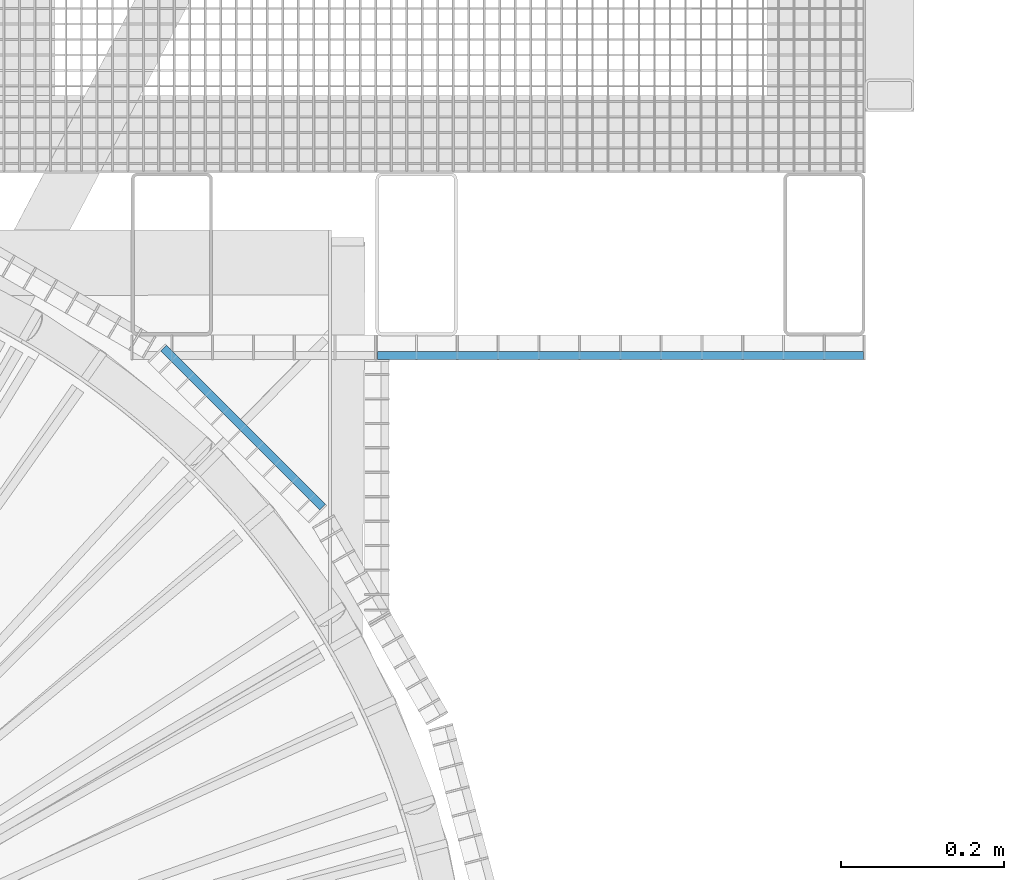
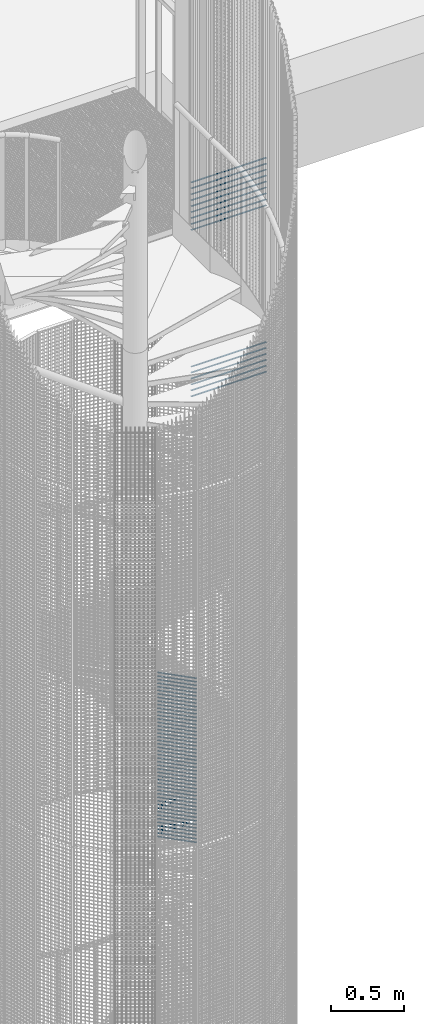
# One storey, part 295 of 1148: 62 beams, 2 elements without a shape of their own.
"""IFC2X3 building model written with IfcOpenShell, lengths in millimetres."""

from ifc_helpers import new_model, si_unit, frame, origin_with_axes, origin_2d_with_axis, place, context, subcontext, project, spatial, rectangle, extrude, material, type_object, element, aggregate, save


model = new_model("IFC2X3")

# Units and contexts
model_context = context("Model", 3, precision=1e-05, world=origin_with_axes())
body_context = subcontext(model_context, "Body", "Model", "MODEL_VIEW")
ifc_project = project(units=[si_unit("LENGTHUNIT", "METRE", prefix="MILLI"), si_unit("AREAUNIT", "SQUARE_METRE"), si_unit("VOLUMEUNIT", "CUBIC_METRE"), si_unit("MASSUNIT", "GRAM", prefix="KILO"), si_unit("TIMEUNIT", "SECOND"), si_unit("PLANEANGLEUNIT", "RADIAN"), si_unit("SOLIDANGLEUNIT", "STERADIAN"), si_unit("THERMODYNAMICTEMPERATUREUNIT", "DEGREE_CELSIUS"), si_unit("LUMINOUSINTENSITYUNIT", "LUMEN")], contexts=[model_context])

# Site, building, storey
site_placement = place(None, origin_with_axes())
site = spatial("IfcSite", under=ifc_project, at=site_placement, Name="Undefined", CompositionType="ELEMENT")
building_placement = place(site_placement, origin_with_axes())
building = spatial("IfcBuilding", under=site, at=building_placement, Name="Undefined", CompositionType="ELEMENT")
storey_placement = place(building_placement, origin_with_axes())
storey = spatial("IfcBuildingStorey", under=building, at=storey_placement, Name="Undefined", CompositionType="ELEMENT", Elevation=0.0)

# Assembly, beams
assembly_1_placement = place(storey_placement, origin_with_axes())
assembly_1 = element("IfcElementAssembly", 1, at=assembly_1_placement, inside=storey, Name="BORDURE", AssemblyPlace="NOTDEFINED", PredefinedType="NOTDEFINED")
ifc_material = material(Name="STEEL/S235JR")
beam_type = type_object("IfcBeamType", Name="PL2*10", PredefinedType="NOTDEFINED")
beam_1_placement = place(assembly_1_placement, frame((952.069589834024, 876.014689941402, 6604.998), z_axis=(0.0, -1.0, 0.0), x_axis=(1.0, 0.0, 0.0)))
beam_1 = element("IfcBeam", 2, at=beam_1_placement, type_object=beam_type, material=ifc_material, Name="ENTRETOISE", context=body_context, shape_type="SweptSolid", body=[
    extrude(rectangle(XDim=2.0, YDim=10.0, at=origin_2d_with_axis()), frame((596.0, 0.0, 0.0), z_axis=(-1.0, 0.0, 0.0), x_axis=(0.0, -1.0, 0.0)), (0.0, 0.0, 1.0), 596.0),
])
beam_2_placement = place(assembly_1_placement, frame((952.069589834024, 876.014689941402, 5454.998), z_axis=(0.0, -1.0, 0.0), x_axis=(1.0, 0.0, 0.0)))
beam_2 = element("IfcBeam", 3, at=beam_2_placement, type_object=beam_type, material=ifc_material, Name="ENTRETOISE", context=body_context, shape_type="SweptSolid", body=[
    extrude(rectangle(XDim=2.0, YDim=10.0, at=origin_2d_with_axis()), frame((596.0, 0.0, 0.0), z_axis=(-1.0, 0.0, 0.0), x_axis=(0.0, -1.0, 0.0)), (0.0, 0.0, 1.0), 596.0),
])
beam_3_placement = place(assembly_1_placement, frame((952.069589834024, 876.014689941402, 6654.998), z_axis=(0.0, -1.0, 0.0), x_axis=(1.0, 0.0, 0.0)))
beam_3 = element("IfcBeam", 4, at=beam_3_placement, type_object=beam_type, material=ifc_material, Name="ENTRETOISE", context=body_context, shape_type="SweptSolid", body=[
    extrude(rectangle(XDim=2.0, YDim=10.0, at=origin_2d_with_axis()), frame((596.0, 0.0, 0.0), z_axis=(-1.0, 0.0, 0.0), x_axis=(0.0, -1.0, 0.0)), (0.0, 0.0, 1.0), 596.0),
])
beam_4_placement = place(assembly_1_placement, frame((952.069589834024, 876.014689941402, 5404.998), z_axis=(0.0, -1.0, 0.0), x_axis=(1.0, 0.0, 0.0)))
beam_4 = element("IfcBeam", 5, at=beam_4_placement, type_object=beam_type, material=ifc_material, Name="ENTRETOISE", context=body_context, shape_type="SweptSolid", body=[
    extrude(rectangle(XDim=2.0, YDim=10.0, at=origin_2d_with_axis()), frame((596.0, 0.0, 0.0), z_axis=(-1.0, 0.0, 0.0), x_axis=(0.0, -1.0, 0.0)), (0.0, 0.0, 1.0), 596.0),
])
beam_5_placement = place(assembly_1_placement, frame((952.069589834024, 876.014689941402, 6704.998), z_axis=(0.0, -1.0, 0.0), x_axis=(1.0, 0.0, 0.0)))
beam_5 = element("IfcBeam", 6, at=beam_5_placement, type_object=beam_type, material=ifc_material, Name="ENTRETOISE", context=body_context, shape_type="SweptSolid", body=[
    extrude(rectangle(XDim=2.0, YDim=10.0, at=origin_2d_with_axis()), frame((596.0, 0.0, 0.0), z_axis=(-1.0, 0.0, 0.0), x_axis=(0.0, -1.0, 0.0)), (0.0, 0.0, 1.0), 596.0),
])
beam_6_placement = place(assembly_1_placement, frame((952.069589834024, 876.014689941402, 6754.998), z_axis=(0.0, -1.0, 0.0), x_axis=(1.0, 0.0, 0.0)))
beam_6 = element("IfcBeam", 7, at=beam_6_placement, type_object=beam_type, material=ifc_material, Name="ENTRETOISE", context=body_context, shape_type="SweptSolid", body=[
    extrude(rectangle(XDim=2.0, YDim=10.0, at=origin_2d_with_axis()), frame((596.0, 0.0, 0.0), z_axis=(-1.0, 0.0, 0.0), x_axis=(0.0, -1.0, 0.0)), (0.0, 0.0, 1.0), 596.0),
])
beam_7_placement = place(assembly_1_placement, frame((952.069589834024, 876.014689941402, 5354.998), z_axis=(0.0, -1.0, 0.0), x_axis=(1.0, 0.0, 0.0)))
beam_7 = element("IfcBeam", 8, at=beam_7_placement, type_object=beam_type, material=ifc_material, Name="ENTRETOISE", context=body_context, shape_type="SweptSolid", body=[
    extrude(rectangle(XDim=2.0, YDim=10.0, at=origin_2d_with_axis()), frame((596.0, 0.0, 0.0), z_axis=(-1.0, 0.0, 0.0), x_axis=(0.0, -1.0, 0.0)), (0.0, 0.0, 1.0), 596.0),
])
beam_8_placement = place(assembly_1_placement, frame((952.069589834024, 876.014689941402, 6804.998), z_axis=(0.0, -1.0, 0.0), x_axis=(1.0, 0.0, 0.0)))
beam_8 = element("IfcBeam", 9, at=beam_8_placement, type_object=beam_type, material=ifc_material, Name="ENTRETOISE", context=body_context, shape_type="SweptSolid", body=[
    extrude(rectangle(XDim=2.0, YDim=10.0, at=origin_2d_with_axis()), frame((596.0, 0.0, 0.0), z_axis=(-1.0, 0.0, 0.0), x_axis=(0.0, -1.0, 0.0)), (0.0, 0.0, 1.0), 596.0),
])
beam_9_placement = place(assembly_1_placement, frame((952.069589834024, 876.014689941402, 6854.998), z_axis=(0.0, -1.0, 0.0), x_axis=(1.0, 0.0, 0.0)))
beam_9 = element("IfcBeam", 10, at=beam_9_placement, type_object=beam_type, material=ifc_material, Name="ENTRETOISE", context=body_context, shape_type="SweptSolid", body=[
    extrude(rectangle(XDim=2.0, YDim=10.0, at=origin_2d_with_axis()), frame((596.0, 0.0, 0.0), z_axis=(-1.0, 0.0, 0.0), x_axis=(0.0, -1.0, 0.0)), (0.0, 0.0, 1.0), 596.0),
])
beam_10_placement = place(assembly_1_placement, frame((952.069589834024, 876.014689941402, 5304.998), z_axis=(0.0, -1.0, 0.0), x_axis=(1.0, 0.0, 0.0)))
beam_10 = element("IfcBeam", 11, at=beam_10_placement, type_object=beam_type, material=ifc_material, Name="ENTRETOISE", context=body_context, shape_type="SweptSolid", body=[
    extrude(rectangle(XDim=2.0, YDim=10.0, at=origin_2d_with_axis()), frame((596.0, 0.0, 0.0), z_axis=(-1.0, 0.0, 0.0), x_axis=(0.0, -1.0, 0.0)), (0.0, 0.0, 1.0), 596.0),
])
beam_11_placement = place(assembly_1_placement, frame((952.069589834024, 876.014689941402, 6904.998), z_axis=(0.0, -1.0, 0.0), x_axis=(1.0, 0.0, 0.0)))
beam_11 = element("IfcBeam", 12, at=beam_11_placement, type_object=beam_type, material=ifc_material, Name="ENTRETOISE", context=body_context, shape_type="SweptSolid", body=[
    extrude(rectangle(XDim=2.0, YDim=10.0, at=origin_2d_with_axis()), frame((596.0, 0.0, 0.0), z_axis=(-1.0, 0.0, 0.0), x_axis=(0.0, -1.0, 0.0)), (0.0, 0.0, 1.0), 596.0),
])
beam_12_placement = place(assembly_1_placement, frame((952.069589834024, 876.014689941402, 5254.998), z_axis=(0.0, -1.0, 0.0), x_axis=(1.0, 0.0, 0.0)))
beam_12 = element("IfcBeam", 13, at=beam_12_placement, type_object=beam_type, material=ifc_material, Name="ENTRETOISE", context=body_context, shape_type="SweptSolid", body=[
    extrude(rectangle(XDim=2.0, YDim=10.0, at=origin_2d_with_axis()), frame((596.0, 0.0, 0.0), z_axis=(-1.0, 0.0, 0.0), x_axis=(0.0, -1.0, 0.0)), (0.0, 0.0, 1.0), 596.0),
])
beam_13_placement = place(assembly_1_placement, frame((952.069589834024, 876.014689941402, 6954.998), z_axis=(0.0, -1.0, 0.0), x_axis=(1.0, 0.0, 0.0)))
beam_13 = element("IfcBeam", 14, at=beam_13_placement, type_object=beam_type, material=ifc_material, Name="ENTRETOISE", context=body_context, shape_type="SweptSolid", body=[
    extrude(rectangle(XDim=2.0, YDim=10.0, at=origin_2d_with_axis()), frame((596.0, 0.0, 0.0), z_axis=(-1.0, 0.0, 0.0), x_axis=(0.0, -1.0, 0.0)), (0.0, 0.0, 1.0), 596.0),
])
beam_14_placement = place(assembly_1_placement, frame((952.069589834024, 876.014689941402, 7004.998), z_axis=(0.0, -1.0, 0.0), x_axis=(1.0, 0.0, 0.0)))
beam_14 = element("IfcBeam", 15, at=beam_14_placement, type_object=beam_type, material=ifc_material, Name="ENTRETOISE", context=body_context, shape_type="SweptSolid", body=[
    extrude(rectangle(XDim=2.0, YDim=10.0, at=origin_2d_with_axis()), frame((596.0, 0.0, 0.0), z_axis=(-1.0, 0.0, 0.0), x_axis=(0.0, -1.0, 0.0)), (0.0, 0.0, 1.0), 596.0),
])
beam_15_placement = place(assembly_1_placement, frame((952.069589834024, 876.014689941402, 5204.998), z_axis=(0.0, -1.0, 0.0), x_axis=(1.0, 0.0, 0.0)))
beam_15 = element("IfcBeam", 16, at=beam_15_placement, type_object=beam_type, material=ifc_material, Name="ENTRETOISE", context=body_context, shape_type="SweptSolid", body=[
    extrude(rectangle(XDim=2.0, YDim=10.0, at=origin_2d_with_axis()), frame((596.0, 0.0, 0.0), z_axis=(-1.0, 0.0, 0.0), x_axis=(0.0, -1.0, 0.0)), (0.0, 0.0, 1.0), 596.0),
])
aggregate(assembly_1, [beam_1, beam_2, beam_3, beam_4, beam_5, beam_6, beam_7, beam_8, beam_9, beam_10, beam_11, beam_12, beam_13, beam_14, beam_15])

assembly_2_placement = place(storey_placement, origin_with_axes())
assembly_2 = element("IfcElementAssembly", 17, at=assembly_2_placement, inside=storey, Name="BORDURE", AssemblyPlace="NOTDEFINED", PredefinedType="NOTDEFINED")
beam_16_placement = place(assembly_2_placement, frame((884.927168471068, 689.771348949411, 2970.0), z_axis=(0.707106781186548, 0.707106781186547, 0.0), x_axis=(-0.707106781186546, 0.707106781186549, 0.0)))
beam_16 = element("IfcBeam", 18, at=beam_16_placement, type_object=beam_type, material=ifc_material, Name="ENTRETOISE", context=body_context, shape_type="SweptSolid", body=[
    extrude(rectangle(XDim=2.0, YDim=10.0, at=origin_2d_with_axis()), frame((275.999999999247, 9.09494701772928e-13, 1.53210777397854e-14), z_axis=(-1.0, 0.0, 0.0), x_axis=(0.0, -1.0, 0.0)), (0.0, 0.0, 1.0), 276.0),
])
beam_17_placement = place(assembly_2_placement, frame((884.927168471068, 689.771348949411, 2940.0), z_axis=(0.707106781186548, 0.707106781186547, 0.0), x_axis=(-0.707106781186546, 0.707106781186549, 0.0)))
beam_17 = element("IfcBeam", 19, at=beam_17_placement, type_object=beam_type, material=ifc_material, Name="ENTRETOISE", context=body_context, shape_type="SweptSolid", body=[
    extrude(rectangle(XDim=2.0, YDim=10.0, at=origin_2d_with_axis()), frame((275.999999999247, 9.09494701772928e-13, 1.53210777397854e-14), z_axis=(-1.0, 0.0, 0.0), x_axis=(0.0, -1.0, 0.0)), (0.0, 0.0, 1.0), 276.0),
])
beam_18_placement = place(assembly_2_placement, frame((884.927168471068, 689.771348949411, 2910.0), z_axis=(0.707106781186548, 0.707106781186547, 0.0), x_axis=(-0.707106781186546, 0.707106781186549, 0.0)))
beam_18 = element("IfcBeam", 20, at=beam_18_placement, type_object=beam_type, material=ifc_material, Name="ENTRETOISE", context=body_context, shape_type="SweptSolid", body=[
    extrude(rectangle(XDim=2.0, YDim=10.0, at=origin_2d_with_axis()), frame((275.999999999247, 9.09494701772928e-13, 1.53210777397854e-14), z_axis=(-1.0, 0.0, 0.0), x_axis=(0.0, -1.0, 0.0)), (0.0, 0.0, 1.0), 276.0),
])
beam_19_placement = place(assembly_2_placement, frame((884.927168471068, 689.771348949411, 2880.0), z_axis=(0.707106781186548, 0.707106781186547, 0.0), x_axis=(-0.707106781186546, 0.707106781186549, 0.0)))
beam_19 = element("IfcBeam", 21, at=beam_19_placement, type_object=beam_type, material=ifc_material, Name="ENTRETOISE", context=body_context, shape_type="SweptSolid", body=[
    extrude(rectangle(XDim=2.0, YDim=10.0, at=origin_2d_with_axis()), frame((275.999999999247, 9.09494701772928e-13, 1.53210777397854e-14), z_axis=(-1.0, 0.0, 0.0), x_axis=(0.0, -1.0, 0.0)), (0.0, 0.0, 1.0), 276.0),
])
beam_20_placement = place(assembly_2_placement, frame((884.927168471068, 689.771348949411, 2850.0), z_axis=(0.707106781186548, 0.707106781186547, 0.0), x_axis=(-0.707106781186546, 0.707106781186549, 0.0)))
beam_20 = element("IfcBeam", 22, at=beam_20_placement, type_object=beam_type, material=ifc_material, Name="ENTRETOISE", context=body_context, shape_type="SweptSolid", body=[
    extrude(rectangle(XDim=2.0, YDim=10.0, at=origin_2d_with_axis()), frame((275.999999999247, 9.09494701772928e-13, 1.53210777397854e-14), z_axis=(-1.0, 0.0, 0.0), x_axis=(0.0, -1.0, 0.0)), (0.0, 0.0, 1.0), 276.0),
])
beam_21_placement = place(assembly_2_placement, frame((884.927168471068, 689.771348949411, 2820.0), z_axis=(0.707106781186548, 0.707106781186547, 0.0), x_axis=(-0.707106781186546, 0.707106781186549, 0.0)))
beam_21 = element("IfcBeam", 23, at=beam_21_placement, type_object=beam_type, material=ifc_material, Name="ENTRETOISE", context=body_context, shape_type="SweptSolid", body=[
    extrude(rectangle(XDim=2.0, YDim=10.0, at=origin_2d_with_axis()), frame((275.999999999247, 9.09494701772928e-13, 1.53210777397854e-14), z_axis=(-1.0, 0.0, 0.0), x_axis=(0.0, -1.0, 0.0)), (0.0, 0.0, 1.0), 276.0),
])
beam_22_placement = place(assembly_2_placement, frame((884.927168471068, 689.771348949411, 2790.0), z_axis=(0.707106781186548, 0.707106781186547, 0.0), x_axis=(-0.707106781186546, 0.707106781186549, 0.0)))
beam_22 = element("IfcBeam", 24, at=beam_22_placement, type_object=beam_type, material=ifc_material, Name="ENTRETOISE", context=body_context, shape_type="SweptSolid", body=[
    extrude(rectangle(XDim=2.0, YDim=10.0, at=origin_2d_with_axis()), frame((275.999999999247, 9.09494701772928e-13, 1.53210777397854e-14), z_axis=(-1.0, 0.0, 0.0), x_axis=(0.0, -1.0, 0.0)), (0.0, 0.0, 1.0), 276.0),
])
beam_23_placement = place(assembly_2_placement, frame((884.927168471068, 689.771348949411, 2760.0), z_axis=(0.707106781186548, 0.707106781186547, 0.0), x_axis=(-0.707106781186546, 0.707106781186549, 0.0)))
beam_23 = element("IfcBeam", 25, at=beam_23_placement, type_object=beam_type, material=ifc_material, Name="ENTRETOISE", context=body_context, shape_type="SweptSolid", body=[
    extrude(rectangle(XDim=2.0, YDim=10.0, at=origin_2d_with_axis()), frame((275.999999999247, 9.09494701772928e-13, 1.53210777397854e-14), z_axis=(-1.0, 0.0, 0.0), x_axis=(0.0, -1.0, 0.0)), (0.0, 0.0, 1.0), 276.0),
])
beam_24_placement = place(assembly_2_placement, frame((884.927168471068, 689.771348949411, 2730.0), z_axis=(0.707106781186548, 0.707106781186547, 0.0), x_axis=(-0.707106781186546, 0.707106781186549, 0.0)))
beam_24 = element("IfcBeam", 26, at=beam_24_placement, type_object=beam_type, material=ifc_material, Name="ENTRETOISE", context=body_context, shape_type="SweptSolid", body=[
    extrude(rectangle(XDim=2.0, YDim=10.0, at=origin_2d_with_axis()), frame((275.999999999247, 9.09494701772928e-13, 1.53210777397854e-14), z_axis=(-1.0, 0.0, 0.0), x_axis=(0.0, -1.0, 0.0)), (0.0, 0.0, 1.0), 276.0),
])
beam_25_placement = place(assembly_2_placement, frame((884.927168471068, 689.771348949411, 2700.0), z_axis=(0.707106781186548, 0.707106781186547, 0.0), x_axis=(-0.707106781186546, 0.707106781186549, 0.0)))
beam_25 = element("IfcBeam", 27, at=beam_25_placement, type_object=beam_type, material=ifc_material, Name="ENTRETOISE", context=body_context, shape_type="SweptSolid", body=[
    extrude(rectangle(XDim=2.0, YDim=10.0, at=origin_2d_with_axis()), frame((275.999999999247, 9.09494701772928e-13, 1.53210777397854e-14), z_axis=(-1.0, 0.0, 0.0), x_axis=(0.0, -1.0, 0.0)), (0.0, 0.0, 1.0), 276.0),
])
beam_26_placement = place(assembly_2_placement, frame((884.927168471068, 689.771348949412, 2670.0), z_axis=(0.707106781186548, 0.707106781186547, 0.0), x_axis=(-0.707106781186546, 0.707106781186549, 0.0)))
beam_26 = element("IfcBeam", 28, at=beam_26_placement, type_object=beam_type, material=ifc_material, Name="ENTRETOISE", context=body_context, shape_type="SweptSolid", body=[
    extrude(rectangle(XDim=2.0, YDim=10.0, at=origin_2d_with_axis()), frame((275.999999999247, 9.09494701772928e-13, 1.53210777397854e-14), z_axis=(-1.0, 0.0, 0.0), x_axis=(0.0, -1.0, 0.0)), (0.0, 0.0, 1.0), 276.0),
])
beam_27_placement = place(assembly_2_placement, frame((884.927168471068, 689.771348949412, 2640.0), z_axis=(0.707106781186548, 0.707106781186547, 0.0), x_axis=(-0.707106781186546, 0.707106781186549, 0.0)))
beam_27 = element("IfcBeam", 29, at=beam_27_placement, type_object=beam_type, material=ifc_material, Name="ENTRETOISE", context=body_context, shape_type="SweptSolid", body=[
    extrude(rectangle(XDim=2.0, YDim=10.0, at=origin_2d_with_axis()), frame((275.999999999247, 9.09494701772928e-13, 1.53210777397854e-14), z_axis=(-1.0, 0.0, 0.0), x_axis=(0.0, -1.0, 0.0)), (0.0, 0.0, 1.0), 276.0),
])
beam_28_placement = place(assembly_2_placement, frame((884.927168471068, 689.771348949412, 2610.0), z_axis=(0.707106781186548, 0.707106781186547, 0.0), x_axis=(-0.707106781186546, 0.707106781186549, 0.0)))
beam_28 = element("IfcBeam", 30, at=beam_28_placement, type_object=beam_type, material=ifc_material, Name="ENTRETOISE", context=body_context, shape_type="SweptSolid", body=[
    extrude(rectangle(XDim=2.0, YDim=10.0, at=origin_2d_with_axis()), frame((275.999999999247, 9.09494701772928e-13, 1.53210777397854e-14), z_axis=(-1.0, 0.0, 0.0), x_axis=(0.0, -1.0, 0.0)), (0.0, 0.0, 1.0), 276.0),
])
beam_29_placement = place(assembly_2_placement, frame((884.927168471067, 689.771348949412, 2580.0), z_axis=(0.707106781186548, 0.707106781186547, 0.0), x_axis=(-0.707106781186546, 0.707106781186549, 0.0)))
beam_29 = element("IfcBeam", 31, at=beam_29_placement, type_object=beam_type, material=ifc_material, Name="ENTRETOISE", context=body_context, shape_type="SweptSolid", body=[
    extrude(rectangle(XDim=2.0, YDim=10.0, at=origin_2d_with_axis()), frame((275.999999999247, 9.09494701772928e-13, 1.53210777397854e-14), z_axis=(-1.0, 0.0, 0.0), x_axis=(0.0, -1.0, 0.0)), (0.0, 0.0, 1.0), 276.0),
])
beam_30_placement = place(assembly_2_placement, frame((884.927168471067, 689.771348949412, 2550.0), z_axis=(0.707106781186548, 0.707106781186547, 0.0), x_axis=(-0.707106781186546, 0.707106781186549, 0.0)))
beam_30 = element("IfcBeam", 32, at=beam_30_placement, type_object=beam_type, material=ifc_material, Name="ENTRETOISE", context=body_context, shape_type="SweptSolid", body=[
    extrude(rectangle(XDim=2.0, YDim=10.0, at=origin_2d_with_axis()), frame((275.999999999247, 9.09494701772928e-13, 1.53210777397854e-14), z_axis=(-1.0, 0.0, 0.0), x_axis=(0.0, -1.0, 0.0)), (0.0, 0.0, 1.0), 276.0),
])
beam_31_placement = place(assembly_2_placement, frame((884.927168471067, 689.771348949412, 2520.0), z_axis=(0.707106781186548, 0.707106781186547, 0.0), x_axis=(-0.707106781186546, 0.707106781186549, 0.0)))
beam_31 = element("IfcBeam", 33, at=beam_31_placement, type_object=beam_type, material=ifc_material, Name="ENTRETOISE", context=body_context, shape_type="SweptSolid", body=[
    extrude(rectangle(XDim=2.0, YDim=10.0, at=origin_2d_with_axis()), frame((275.999999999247, 9.09494701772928e-13, 1.53210777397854e-14), z_axis=(-1.0, 0.0, 0.0), x_axis=(0.0, -1.0, 0.0)), (0.0, 0.0, 1.0), 276.0),
])
beam_32_placement = place(assembly_2_placement, frame((884.927168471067, 689.771348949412, 2490.0), z_axis=(0.707106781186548, 0.707106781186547, 0.0), x_axis=(-0.707106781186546, 0.707106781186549, 0.0)))
beam_32 = element("IfcBeam", 34, at=beam_32_placement, type_object=beam_type, material=ifc_material, Name="ENTRETOISE", context=body_context, shape_type="SweptSolid", body=[
    extrude(rectangle(XDim=2.0, YDim=10.0, at=origin_2d_with_axis()), frame((275.999999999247, 9.09494701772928e-13, 1.53210777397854e-14), z_axis=(-1.0, 0.0, 0.0), x_axis=(0.0, -1.0, 0.0)), (0.0, 0.0, 1.0), 276.0),
])
beam_33_placement = place(assembly_2_placement, frame((884.927168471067, 689.771348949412, 2460.0), z_axis=(0.707106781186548, 0.707106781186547, 0.0), x_axis=(-0.707106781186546, 0.707106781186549, 0.0)))
beam_33 = element("IfcBeam", 35, at=beam_33_placement, type_object=beam_type, material=ifc_material, Name="ENTRETOISE", context=body_context, shape_type="SweptSolid", body=[
    extrude(rectangle(XDim=2.0, YDim=10.0, at=origin_2d_with_axis()), frame((275.999999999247, 9.09494701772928e-13, 1.53210777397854e-14), z_axis=(-1.0, 0.0, 0.0), x_axis=(0.0, -1.0, 0.0)), (0.0, 0.0, 1.0), 276.0),
])
beam_34_placement = place(assembly_2_placement, frame((884.927168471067, 689.771348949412, 2430.0), z_axis=(0.707106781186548, 0.707106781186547, 0.0), x_axis=(-0.707106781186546, 0.707106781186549, 0.0)))
beam_34 = element("IfcBeam", 36, at=beam_34_placement, type_object=beam_type, material=ifc_material, Name="ENTRETOISE", context=body_context, shape_type="SweptSolid", body=[
    extrude(rectangle(XDim=2.0, YDim=10.0, at=origin_2d_with_axis()), frame((275.999999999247, 9.09494701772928e-13, 1.53210777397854e-14), z_axis=(-1.0, 0.0, 0.0), x_axis=(0.0, -1.0, 0.0)), (0.0, 0.0, 1.0), 276.0),
])
beam_35_placement = place(assembly_2_placement, frame((884.927168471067, 689.771348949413, 2400.0), z_axis=(0.707106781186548, 0.707106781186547, 0.0), x_axis=(-0.707106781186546, 0.707106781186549, 0.0)))
beam_35 = element("IfcBeam", 37, at=beam_35_placement, type_object=beam_type, material=ifc_material, Name="ENTRETOISE", context=body_context, shape_type="SweptSolid", body=[
    extrude(rectangle(XDim=2.0, YDim=10.0, at=origin_2d_with_axis()), frame((275.999999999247, 9.09494701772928e-13, 1.53210777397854e-14), z_axis=(-1.0, 0.0, 0.0), x_axis=(0.0, -1.0, 0.0)), (0.0, 0.0, 1.0), 276.0),
])
beam_36_placement = place(assembly_2_placement, frame((884.927168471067, 689.771348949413, 2370.0), z_axis=(0.707106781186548, 0.707106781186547, 0.0), x_axis=(-0.707106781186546, 0.707106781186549, 0.0)))
beam_36 = element("IfcBeam", 38, at=beam_36_placement, type_object=beam_type, material=ifc_material, Name="ENTRETOISE", context=body_context, shape_type="SweptSolid", body=[
    extrude(rectangle(XDim=2.0, YDim=10.0, at=origin_2d_with_axis()), frame((275.999999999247, 9.09494701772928e-13, 1.53210777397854e-14), z_axis=(-1.0, 0.0, 0.0), x_axis=(0.0, -1.0, 0.0)), (0.0, 0.0, 1.0), 276.0),
])
beam_37_placement = place(assembly_2_placement, frame((884.927168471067, 689.771348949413, 2340.0), z_axis=(0.707106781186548, 0.707106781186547, 0.0), x_axis=(-0.707106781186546, 0.707106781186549, 0.0)))
beam_37 = element("IfcBeam", 39, at=beam_37_placement, type_object=beam_type, material=ifc_material, Name="ENTRETOISE", context=body_context, shape_type="SweptSolid", body=[
    extrude(rectangle(XDim=2.0, YDim=10.0, at=origin_2d_with_axis()), frame((275.999999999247, 9.09494701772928e-13, 1.53210777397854e-14), z_axis=(-1.0, 0.0, 0.0), x_axis=(0.0, -1.0, 0.0)), (0.0, 0.0, 1.0), 276.0),
])
beam_38_placement = place(assembly_2_placement, frame((884.927168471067, 689.771348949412, 2310.0), z_axis=(0.707106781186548, 0.707106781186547, 0.0), x_axis=(-0.707106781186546, 0.707106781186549, 0.0)))
beam_38 = element("IfcBeam", 40, at=beam_38_placement, type_object=beam_type, material=ifc_material, Name="ENTRETOISE", context=body_context, shape_type="SweptSolid", body=[
    extrude(rectangle(XDim=2.0, YDim=10.0, at=origin_2d_with_axis()), frame((275.999999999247, 9.09494701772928e-13, 1.53210777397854e-14), z_axis=(-1.0, 0.0, 0.0), x_axis=(0.0, -1.0, 0.0)), (0.0, 0.0, 1.0), 276.0),
])
beam_39_placement = place(assembly_2_placement, frame((884.927168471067, 689.771348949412, 2280.0), z_axis=(0.707106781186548, 0.707106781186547, 0.0), x_axis=(-0.707106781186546, 0.707106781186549, 0.0)))
beam_39 = element("IfcBeam", 41, at=beam_39_placement, type_object=beam_type, material=ifc_material, Name="ENTRETOISE", context=body_context, shape_type="SweptSolid", body=[
    extrude(rectangle(XDim=2.0, YDim=10.0, at=origin_2d_with_axis()), frame((275.999999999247, 9.09494701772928e-13, 1.53210777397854e-14), z_axis=(-1.0, 0.0, 0.0), x_axis=(0.0, -1.0, 0.0)), (0.0, 0.0, 1.0), 276.0),
])
beam_40_placement = place(assembly_2_placement, frame((884.927168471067, 689.771348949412, 2250.0), z_axis=(0.707106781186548, 0.707106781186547, 0.0), x_axis=(-0.707106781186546, 0.707106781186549, 0.0)))
beam_40 = element("IfcBeam", 42, at=beam_40_placement, type_object=beam_type, material=ifc_material, Name="ENTRETOISE", context=body_context, shape_type="SweptSolid", body=[
    extrude(rectangle(XDim=2.0, YDim=10.0, at=origin_2d_with_axis()), frame((275.999999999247, 9.09494701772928e-13, 1.53210777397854e-14), z_axis=(-1.0, 0.0, 0.0), x_axis=(0.0, -1.0, 0.0)), (0.0, 0.0, 1.0), 276.0),
])
beam_41_placement = place(assembly_2_placement, frame((884.927168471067, 689.771348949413, 2220.0), z_axis=(0.707106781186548, 0.707106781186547, 0.0), x_axis=(-0.707106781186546, 0.707106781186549, 0.0)))
beam_41 = element("IfcBeam", 43, at=beam_41_placement, type_object=beam_type, material=ifc_material, Name="ENTRETOISE", context=body_context, shape_type="SweptSolid", body=[
    extrude(rectangle(XDim=2.0, YDim=10.0, at=origin_2d_with_axis()), frame((275.999999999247, 9.09494701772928e-13, 1.53210777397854e-14), z_axis=(-1.0, 0.0, 0.0), x_axis=(0.0, -1.0, 0.0)), (0.0, 0.0, 1.0), 276.0),
])
beam_42_placement = place(assembly_2_placement, frame((884.927168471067, 689.771348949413, 2190.0), z_axis=(0.707106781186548, 0.707106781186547, 0.0), x_axis=(-0.707106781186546, 0.707106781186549, 0.0)))
beam_42 = element("IfcBeam", 44, at=beam_42_placement, type_object=beam_type, material=ifc_material, Name="ENTRETOISE", context=body_context, shape_type="SweptSolid", body=[
    extrude(rectangle(XDim=2.0, YDim=10.0, at=origin_2d_with_axis()), frame((275.999999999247, 9.09494701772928e-13, 1.53210777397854e-14), z_axis=(-1.0, 0.0, 0.0), x_axis=(0.0, -1.0, 0.0)), (0.0, 0.0, 1.0), 276.0),
])
beam_43_placement = place(assembly_2_placement, frame((884.927168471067, 689.771348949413, 2160.0), z_axis=(0.707106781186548, 0.707106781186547, 0.0), x_axis=(-0.707106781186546, 0.707106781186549, 0.0)))
beam_43 = element("IfcBeam", 45, at=beam_43_placement, type_object=beam_type, material=ifc_material, Name="ENTRETOISE", context=body_context, shape_type="SweptSolid", body=[
    extrude(rectangle(XDim=2.0, YDim=10.0, at=origin_2d_with_axis()), frame((275.999999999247, 9.09494701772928e-13, 1.53210777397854e-14), z_axis=(-1.0, 0.0, 0.0), x_axis=(0.0, -1.0, 0.0)), (0.0, 0.0, 1.0), 276.0),
])
beam_44_placement = place(assembly_2_placement, frame((884.927168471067, 689.771348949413, 2130.0), z_axis=(0.707106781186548, 0.707106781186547, 0.0), x_axis=(-0.707106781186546, 0.707106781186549, 0.0)))
beam_44 = element("IfcBeam", 46, at=beam_44_placement, type_object=beam_type, material=ifc_material, Name="ENTRETOISE", context=body_context, shape_type="SweptSolid", body=[
    extrude(rectangle(XDim=2.0, YDim=10.0, at=origin_2d_with_axis()), frame((275.999999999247, 9.09494701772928e-13, 1.53210777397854e-14), z_axis=(-1.0, 0.0, 0.0), x_axis=(0.0, -1.0, 0.0)), (0.0, 0.0, 1.0), 276.0),
])
beam_45_placement = place(assembly_2_placement, frame((884.927168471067, 689.771348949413, 2100.0), z_axis=(0.707106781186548, 0.707106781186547, 0.0), x_axis=(-0.707106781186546, 0.707106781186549, 0.0)))
beam_45 = element("IfcBeam", 47, at=beam_45_placement, type_object=beam_type, material=ifc_material, Name="ENTRETOISE", context=body_context, shape_type="SweptSolid", body=[
    extrude(rectangle(XDim=2.0, YDim=10.0, at=origin_2d_with_axis()), frame((275.999999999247, 9.09494701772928e-13, 1.53210777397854e-14), z_axis=(-1.0, 0.0, 0.0), x_axis=(0.0, -1.0, 0.0)), (0.0, 0.0, 1.0), 276.0),
])
beam_46_placement = place(assembly_2_placement, frame((884.927168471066, 689.771348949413, 2070.0), z_axis=(0.707106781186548, 0.707106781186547, 0.0), x_axis=(-0.707106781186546, 0.707106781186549, 0.0)))
beam_46 = element("IfcBeam", 48, at=beam_46_placement, type_object=beam_type, material=ifc_material, Name="ENTRETOISE", context=body_context, shape_type="SweptSolid", body=[
    extrude(rectangle(XDim=2.0, YDim=10.0, at=origin_2d_with_axis()), frame((275.999999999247, 9.09494701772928e-13, 1.53210777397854e-14), z_axis=(-1.0, 0.0, 0.0), x_axis=(0.0, -1.0, 0.0)), (0.0, 0.0, 1.0), 276.0),
])
beam_47_placement = place(assembly_2_placement, frame((884.927168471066, 689.771348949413, 2040.0), z_axis=(0.707106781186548, 0.707106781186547, 0.0), x_axis=(-0.707106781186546, 0.707106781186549, 0.0)))
beam_47 = element("IfcBeam", 49, at=beam_47_placement, type_object=beam_type, material=ifc_material, Name="ENTRETOISE", context=body_context, shape_type="SweptSolid", body=[
    extrude(rectangle(XDim=2.0, YDim=10.0, at=origin_2d_with_axis()), frame((275.999999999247, 9.09494701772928e-13, 1.53210777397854e-14), z_axis=(-1.0, 0.0, 0.0), x_axis=(0.0, -1.0, 0.0)), (0.0, 0.0, 1.0), 276.0),
])
beam_48_placement = place(assembly_2_placement, frame((884.927168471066, 689.771348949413, 2010.0), z_axis=(0.707106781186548, 0.707106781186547, 0.0), x_axis=(-0.707106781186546, 0.707106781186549, 0.0)))
beam_48 = element("IfcBeam", 50, at=beam_48_placement, type_object=beam_type, material=ifc_material, Name="ENTRETOISE", context=body_context, shape_type="SweptSolid", body=[
    extrude(rectangle(XDim=2.0, YDim=10.0, at=origin_2d_with_axis()), frame((275.999999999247, 9.09494701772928e-13, 1.53210777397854e-14), z_axis=(-1.0, 0.0, 0.0), x_axis=(0.0, -1.0, 0.0)), (0.0, 0.0, 1.0), 276.0),
])
beam_49_placement = place(assembly_2_placement, frame((884.927168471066, 689.771348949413, 1980.0), z_axis=(0.707106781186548, 0.707106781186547, 0.0), x_axis=(-0.707106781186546, 0.707106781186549, 0.0)))
beam_49 = element("IfcBeam", 51, at=beam_49_placement, type_object=beam_type, material=ifc_material, Name="ENTRETOISE", context=body_context, shape_type="SweptSolid", body=[
    extrude(rectangle(XDim=2.0, YDim=10.0, at=origin_2d_with_axis()), frame((275.999999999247, 9.09494701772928e-13, 1.53210777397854e-14), z_axis=(-1.0, 0.0, 0.0), x_axis=(0.0, -1.0, 0.0)), (0.0, 0.0, 1.0), 276.0),
])
beam_50_placement = place(assembly_2_placement, frame((884.927168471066, 689.771348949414, 1950.0), z_axis=(0.707106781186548, 0.707106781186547, 0.0), x_axis=(-0.707106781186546, 0.707106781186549, 0.0)))
beam_50 = element("IfcBeam", 52, at=beam_50_placement, type_object=beam_type, material=ifc_material, Name="ENTRETOISE", context=body_context, shape_type="SweptSolid", body=[
    extrude(rectangle(XDim=2.0, YDim=10.0, at=origin_2d_with_axis()), frame((275.999999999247, 9.09494701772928e-13, 1.53210777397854e-14), z_axis=(-1.0, 0.0, 0.0), x_axis=(0.0, -1.0, 0.0)), (0.0, 0.0, 1.0), 276.0),
])
beam_51_placement = place(assembly_2_placement, frame((884.927168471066, 689.771348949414, 1920.0), z_axis=(0.707106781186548, 0.707106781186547, 0.0), x_axis=(-0.707106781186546, 0.707106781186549, 0.0)))
beam_51 = element("IfcBeam", 53, at=beam_51_placement, type_object=beam_type, material=ifc_material, Name="ENTRETOISE", context=body_context, shape_type="SweptSolid", body=[
    extrude(rectangle(XDim=2.0, YDim=10.0, at=origin_2d_with_axis()), frame((275.999999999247, 9.09494701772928e-13, 1.53210777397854e-14), z_axis=(-1.0, 0.0, 0.0), x_axis=(0.0, -1.0, 0.0)), (0.0, 0.0, 1.0), 276.0),
])
beam_52_placement = place(assembly_2_placement, frame((884.927168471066, 689.771348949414, 1890.0), z_axis=(0.707106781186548, 0.707106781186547, 0.0), x_axis=(-0.707106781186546, 0.707106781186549, 0.0)))
beam_52 = element("IfcBeam", 54, at=beam_52_placement, type_object=beam_type, material=ifc_material, Name="ENTRETOISE", context=body_context, shape_type="SweptSolid", body=[
    extrude(rectangle(XDim=2.0, YDim=10.0, at=origin_2d_with_axis()), frame((275.999999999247, 9.09494701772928e-13, 1.53210777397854e-14), z_axis=(-1.0, 0.0, 0.0), x_axis=(0.0, -1.0, 0.0)), (0.0, 0.0, 1.0), 276.0),
])
beam_53_placement = place(assembly_2_placement, frame((884.927168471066, 689.771348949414, 1860.0), z_axis=(0.707106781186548, 0.707106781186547, 0.0), x_axis=(-0.707106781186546, 0.707106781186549, 0.0)))
beam_53 = element("IfcBeam", 55, at=beam_53_placement, type_object=beam_type, material=ifc_material, Name="ENTRETOISE", context=body_context, shape_type="SweptSolid", body=[
    extrude(rectangle(XDim=2.0, YDim=10.0, at=origin_2d_with_axis()), frame((275.999999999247, 9.09494701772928e-13, 1.53210777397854e-14), z_axis=(-1.0, 0.0, 0.0), x_axis=(0.0, -1.0, 0.0)), (0.0, 0.0, 1.0), 276.0),
])
beam_54_placement = place(assembly_2_placement, frame((884.927168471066, 689.771348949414, 1830.0), z_axis=(0.707106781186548, 0.707106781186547, 0.0), x_axis=(-0.707106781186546, 0.707106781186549, 0.0)))
beam_54 = element("IfcBeam", 56, at=beam_54_placement, type_object=beam_type, material=ifc_material, Name="ENTRETOISE", context=body_context, shape_type="SweptSolid", body=[
    extrude(rectangle(XDim=2.0, YDim=10.0, at=origin_2d_with_axis()), frame((275.999999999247, 9.09494701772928e-13, 1.53210777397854e-14), z_axis=(-1.0, 0.0, 0.0), x_axis=(0.0, -1.0, 0.0)), (0.0, 0.0, 1.0), 276.0),
])
beam_55_placement = place(assembly_2_placement, frame((884.927168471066, 689.771348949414, 1800.0), z_axis=(0.707106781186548, 0.707106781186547, 0.0), x_axis=(-0.707106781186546, 0.707106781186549, 0.0)))
beam_55 = element("IfcBeam", 57, at=beam_55_placement, type_object=beam_type, material=ifc_material, Name="ENTRETOISE", context=body_context, shape_type="SweptSolid", body=[
    extrude(rectangle(XDim=2.0, YDim=10.0, at=origin_2d_with_axis()), frame((275.999999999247, 9.09494701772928e-13, 1.53210777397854e-14), z_axis=(-1.0, 0.0, 0.0), x_axis=(0.0, -1.0, 0.0)), (0.0, 0.0, 1.0), 276.0),
])
beam_56_placement = place(assembly_2_placement, frame((884.927168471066, 689.771348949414, 1770.0), z_axis=(0.707106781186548, 0.707106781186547, 0.0), x_axis=(-0.707106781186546, 0.707106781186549, 0.0)))
beam_56 = element("IfcBeam", 58, at=beam_56_placement, type_object=beam_type, material=ifc_material, Name="ENTRETOISE", context=body_context, shape_type="SweptSolid", body=[
    extrude(rectangle(XDim=2.0, YDim=10.0, at=origin_2d_with_axis()), frame((275.999999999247, 9.09494701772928e-13, 1.53210777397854e-14), z_axis=(-1.0, 0.0, 0.0), x_axis=(0.0, -1.0, 0.0)), (0.0, 0.0, 1.0), 276.0),
])
beam_57_placement = place(assembly_2_placement, frame((884.927168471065, 689.771348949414, 1740.0), z_axis=(0.707106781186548, 0.707106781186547, 0.0), x_axis=(-0.707106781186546, 0.707106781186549, 0.0)))
beam_57 = element("IfcBeam", 59, at=beam_57_placement, type_object=beam_type, material=ifc_material, Name="ENTRETOISE", context=body_context, shape_type="SweptSolid", body=[
    extrude(rectangle(XDim=2.0, YDim=10.0, at=origin_2d_with_axis()), frame((275.999999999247, 9.09494701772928e-13, 1.53210777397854e-14), z_axis=(-1.0, 0.0, 0.0), x_axis=(0.0, -1.0, 0.0)), (0.0, 0.0, 1.0), 276.0),
])
beam_58_placement = place(assembly_2_placement, frame((884.927168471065, 689.771348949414, 1710.0), z_axis=(0.707106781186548, 0.707106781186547, 0.0), x_axis=(-0.707106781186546, 0.707106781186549, 0.0)))
beam_58 = element("IfcBeam", 60, at=beam_58_placement, type_object=beam_type, material=ifc_material, Name="ENTRETOISE", context=body_context, shape_type="SweptSolid", body=[
    extrude(rectangle(XDim=2.0, YDim=10.0, at=origin_2d_with_axis()), frame((275.999999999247, 9.09494701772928e-13, 1.53210777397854e-14), z_axis=(-1.0, 0.0, 0.0), x_axis=(0.0, -1.0, 0.0)), (0.0, 0.0, 1.0), 276.0),
])
beam_59_placement = place(assembly_2_placement, frame((884.927168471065, 689.771348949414, 1680.0), z_axis=(0.707106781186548, 0.707106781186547, 0.0), x_axis=(-0.707106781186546, 0.707106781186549, 0.0)))
beam_59 = element("IfcBeam", 61, at=beam_59_placement, type_object=beam_type, material=ifc_material, Name="ENTRETOISE", context=body_context, shape_type="SweptSolid", body=[
    extrude(rectangle(XDim=2.0, YDim=10.0, at=origin_2d_with_axis()), frame((275.999999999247, 9.09494701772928e-13, 1.53210777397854e-14), z_axis=(-1.0, 0.0, 0.0), x_axis=(0.0, -1.0, 0.0)), (0.0, 0.0, 1.0), 276.0),
])
beam_60_placement = place(assembly_2_placement, frame((884.927168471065, 689.771348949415, 1650.0), z_axis=(0.707106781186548, 0.707106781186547, 0.0), x_axis=(-0.707106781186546, 0.707106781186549, 0.0)))
beam_60 = element("IfcBeam", 62, at=beam_60_placement, type_object=beam_type, material=ifc_material, Name="ENTRETOISE", context=body_context, shape_type="SweptSolid", body=[
    extrude(rectangle(XDim=2.0, YDim=10.0, at=origin_2d_with_axis()), frame((275.999999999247, 9.09494701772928e-13, 1.53210777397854e-14), z_axis=(-1.0, 0.0, 0.0), x_axis=(0.0, -1.0, 0.0)), (0.0, 0.0, 1.0), 276.0),
])
beam_61_placement = place(assembly_2_placement, frame((884.927168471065, 689.771348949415, 1620.0), z_axis=(0.707106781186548, 0.707106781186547, 0.0), x_axis=(-0.707106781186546, 0.707106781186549, 0.0)))
beam_61 = element("IfcBeam", 63, at=beam_61_placement, type_object=beam_type, material=ifc_material, Name="ENTRETOISE", context=body_context, shape_type="SweptSolid", body=[
    extrude(rectangle(XDim=2.0, YDim=10.0, at=origin_2d_with_axis()), frame((275.999999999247, 9.09494701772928e-13, 1.53210777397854e-14), z_axis=(-1.0, 0.0, 0.0), x_axis=(0.0, -1.0, 0.0)), (0.0, 0.0, 1.0), 276.0),
])
beam_62_placement = place(assembly_2_placement, frame((884.927168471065, 689.771348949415, 1590.0), z_axis=(0.707106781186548, 0.707106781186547, 0.0), x_axis=(-0.707106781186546, 0.707106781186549, 0.0)))
beam_62 = element("IfcBeam", 64, at=beam_62_placement, type_object=beam_type, material=ifc_material, Name="ENTRETOISE", context=body_context, shape_type="SweptSolid", body=[
    extrude(rectangle(XDim=2.0, YDim=10.0, at=origin_2d_with_axis()), frame((275.999999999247, 9.09494701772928e-13, 1.53210777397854e-14), z_axis=(-1.0, 0.0, 0.0), x_axis=(0.0, -1.0, 0.0)), (0.0, 0.0, 1.0), 276.0),
])
aggregate(assembly_2, [beam_16, beam_17, beam_18, beam_19, beam_20, beam_21, beam_22, beam_23, beam_24, beam_25, beam_26, beam_27, beam_28, beam_29, beam_30, beam_31, beam_32, beam_33, beam_34, beam_35, beam_36, beam_37, beam_38, beam_39, beam_40, beam_41, beam_42, beam_43, beam_44, beam_45, beam_46, beam_47, beam_48, beam_49, beam_50, beam_51, beam_52, beam_53, beam_54, beam_55, beam_56, beam_57, beam_58, beam_59, beam_60, beam_61, beam_62])

save(model, "model.ifc")
